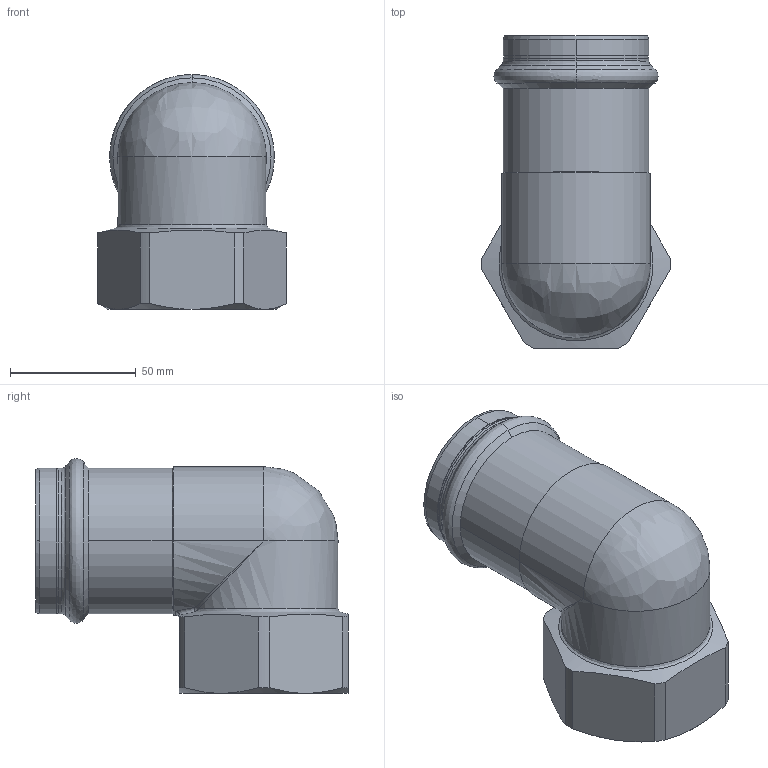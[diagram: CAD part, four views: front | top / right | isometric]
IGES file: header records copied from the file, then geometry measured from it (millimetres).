
Start section: Elysium IGES Interface
Global section: file name: F:\3d modellen sudo\S-Pr VP\SP6090GV\6090GVW542.igs; native system: CoCreate Modeling 17.00A  17-Jun-2010; preprocessor: CoCreate IGES_3D V2.2; author: Unknown; organization: Unknown; date: 20130128.101350; units: millimetre
Bounding box: 74.99 x 123.9 x 93.15 mm (x, y, z)
Volume: 102625 mm3; surface area: 57246.8 mm2
Topology: 1 solids, 1 shells, 94 faces, 229 edges, 137 vertices
Faces by surface type: bspline 94
